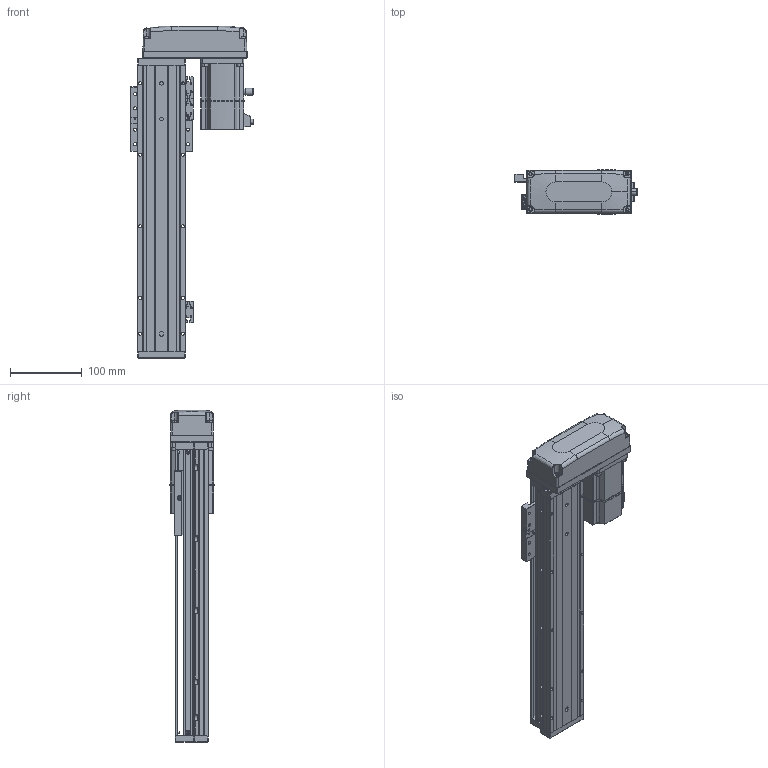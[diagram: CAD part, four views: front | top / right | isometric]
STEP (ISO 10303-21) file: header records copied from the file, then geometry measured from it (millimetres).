
FILE_DESCRIPTION (( 'STEP AP203' ), '1' );
FILE_NAME ('KTHAL60-250-BL-M20-C4L.step', '2022-12-16T02:05:49', ( '微软用户' ), ( '微软中国' ), 'SwSTEP 2.0', 'SolidWorks 2020', '' );
FILE_SCHEMA (( 'CONFIG_CONTROL_DESIGN' ));
Length unit declared in the file: millimetre
Products named in the file (17): CTHA60-021; GTH80-026; KTHA60-004; GBT 70.1-M4×16; KTHAL60-250-BL-M20-C4L; KTHA60-005; GBT77-2000M3-3; GB¨uT 70.2-M3¡Á5_M3¡Á6; GBT 70.1-M3℅6; GBT 70.3-M3℅6; CTHA60-016; EE_SX911P_R; _X2_4E0983F1_X0_200W_1; KTHA60-001_400; CTHA60-017; CTHA60-015-4_CTHA60-015-4; KTHLA60-002
Assembly tree (45 placements, depth 2):
  KTHAL60-250-BL-M20-C4L
    KTHA60-001_400
    KTHLA60-002
    KTHA60-004
    KTHA60-005
    GB¨uT 70.2-M3¡Á5_M3¡Á6  x5
    GBT 70.3-M3℅6  x4
    EE_SX911P_R  x3
    CTHA60-017  x3
    CTHA60-021  x2
    GBT 70.1-M4×16  x8
    GBT77-2000M3-3  x6
    GBT 70.1-M3℅6  x6
    CTHA60-016
    _X2_4E0983F1_X0_200W_1
    CTHA60-015-4_CTHA60-015-4
    GTH80-026
Bounding box: 172.2 x 62.42 x 464 mm (x, y, z)
Volume: 1513587.7 mm3; surface area: 309713.9 mm2
Topology: 48 solids, 48 shells, 2311 faces, 5492 edges, 3373 vertices
Faces by surface type: plane 1235, cylinder 611, cone 266, bspline 103, torus 82, sphere 14
Entity records: 44601 total; most frequent: CARTESIAN_POINT 10042, DIRECTION 6701, ORIENTED_EDGE 6608, EDGE_CURVE 3304, AXIS2_PLACEMENT_3D 2316, LINE 2069, VECTOR 2069, VERTEX_POINT 2057
